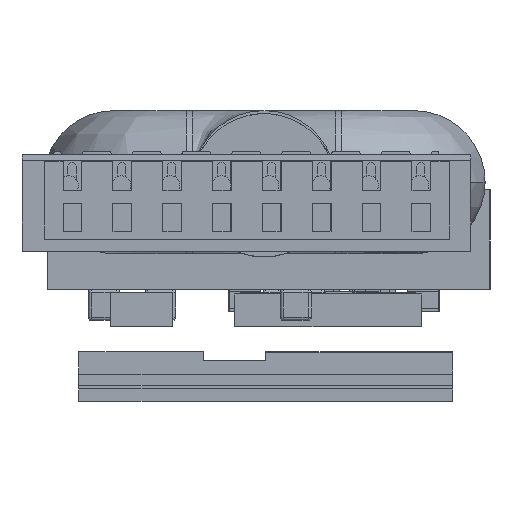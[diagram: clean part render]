
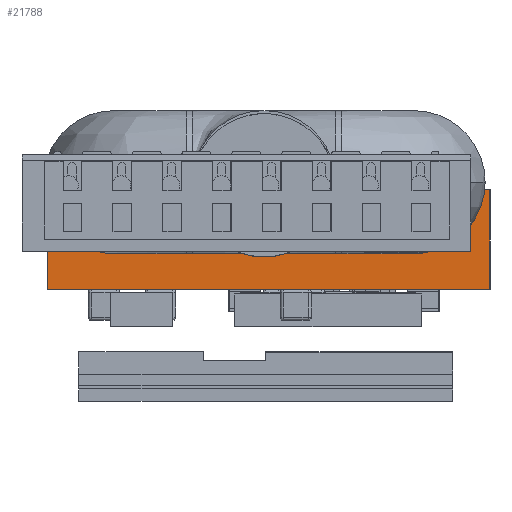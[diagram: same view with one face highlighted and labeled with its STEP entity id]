
A CAD part, left-side view. The second image highlights one B-rep face of the part: STEP entity #21788.
In plain terms, the highlighted planar face has unit normal (-1, 0, 0).
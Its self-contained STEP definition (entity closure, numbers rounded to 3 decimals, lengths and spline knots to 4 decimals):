
#21361=DIRECTION('',(0.,1.,0.));
#21362=VECTOR('',#21361,7.1);
#21363=CARTESIAN_POINT('',(1.,-3.6,0.));
#21364=LINE('',#21363,#21362);
#21368=DIRECTION('',(0.,0.,1.));
#21369=VECTOR('',#21368,1.6);
#21370=CARTESIAN_POINT('',(1.,3.5,0.));
#21371=LINE('',#21370,#21369);
#21375=DIRECTION('',(0.,-1.,0.));
#21376=VECTOR('',#21375,7.1);
#21377=CARTESIAN_POINT('',(1.,3.5,1.6));
#21378=LINE('',#21377,#21376);
#21389=DIRECTION('',(0.,0.,1.));
#21390=VECTOR('',#21389,1.6);
#21391=CARTESIAN_POINT('',(1.,-3.6,0.));
#21392=LINE('',#21391,#21390);
#21709=CARTESIAN_POINT('',(1.,-3.6,0.));
#21710=CARTESIAN_POINT('',(1.,-3.6,1.6));
#21711=VERTEX_POINT('',#21709);
#21712=VERTEX_POINT('',#21710);
#21713=CARTESIAN_POINT('',(1.,3.5,0.));
#21714=VERTEX_POINT('',#21713);
#21715=CARTESIAN_POINT('',(1.,3.5,1.6));
#21716=VERTEX_POINT('',#21715);
#21773=CARTESIAN_POINT('',(1.,-3.6,0.));
#21774=DIRECTION('',(-1.,0.,0.));
#21775=DIRECTION('',(0.,1.,0.));
#21776=AXIS2_PLACEMENT_3D('',#21773,#21774,#21775);
#21777=PLANE('',#21776);
#21779=ORIENTED_EDGE('',*,*,#21778,.F.);
#21781=ORIENTED_EDGE('',*,*,#21780,.T.);
#21783=ORIENTED_EDGE('',*,*,#21782,.T.);
#21785=ORIENTED_EDGE('',*,*,#21784,.T.);
#21786=EDGE_LOOP('',(#21779,#21781,#21783,#21785));
#21787=FACE_OUTER_BOUND('',#21786,.F.);
#21788=ADVANCED_FACE('',(#21787),#21777,.T.);
#21778=EDGE_CURVE('',#21711,#21712,#21392,.T.);
#21780=EDGE_CURVE('',#21711,#21714,#21364,.T.);
#21782=EDGE_CURVE('',#21714,#21716,#21371,.T.);
#21784=EDGE_CURVE('',#21716,#21712,#21378,.T.);
